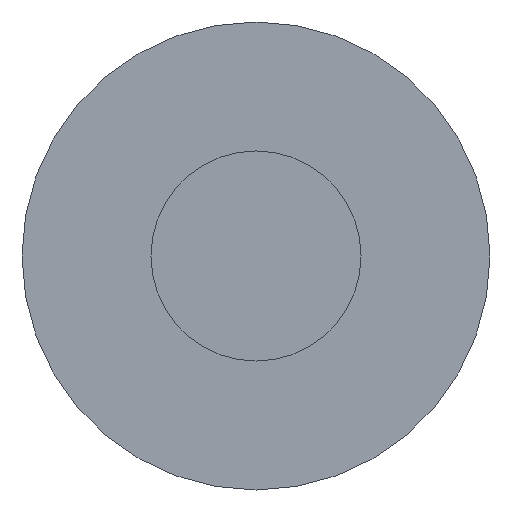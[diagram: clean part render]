
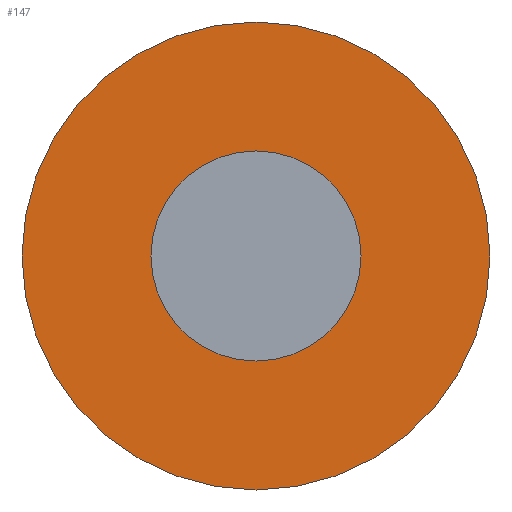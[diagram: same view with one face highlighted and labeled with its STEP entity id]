
A CAD part, left-side view. The second image highlights one B-rep face of the part: STEP entity #147.
In plain terms, the highlighted planar face has unit normal (-1, 0, 0).
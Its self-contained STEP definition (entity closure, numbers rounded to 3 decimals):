
#15=PLANE($,#168);
#25=FACE_BOUND($,#54,.T.);
#38=FACE_OUTER_BOUND($,#53,.T.);
#53=EDGE_LOOP($,(#118));
#54=EDGE_LOOP($,(#119));
#76=CIRCLE($,#167,0.508);
#77=CIRCLE($,#169,1.98);
#89=VERTEX_POINT($,#254);
#90=VERTEX_POINT($,#257);
#102=EDGE_CURVE($,#89,#89,#76,.T.);
#103=EDGE_CURVE($,#90,#90,#77,.T.);
#118=ORIENTED_EDGE($,*,*,#103,.F.);
#119=ORIENTED_EDGE($,*,*,#102,.T.);
#147=ADVANCED_FACE($,(#38,#25),#15,.T.);
#167=AXIS2_PLACEMENT_3D($,#255,#202,#203);
#168=AXIS2_PLACEMENT_3D($,#256,#204,#205);
#169=AXIS2_PLACEMENT_3D($,#258,#206,#207);
#202=DIRECTION('center_axis',(1.,0.,0.));
#203=DIRECTION('ref_axis',(0.,1.,0.));
#204=DIRECTION('center_axis',(-1.,0.,0.));
#205=DIRECTION('ref_axis',(0.,0.,1.));
#206=DIRECTION('center_axis',(1.,0.,0.));
#207=DIRECTION('ref_axis',(0.,1.,0.));
#254=CARTESIAN_POINT('',(3.15,0.508,0.));
#255=CARTESIAN_POINT('Origin',(3.15,0.,0.));
#256=CARTESIAN_POINT('Origin',(3.15,1.244,0.));
#257=CARTESIAN_POINT('',(3.15,1.98,0.));
#258=CARTESIAN_POINT('Origin',(3.15,0.,0.));
